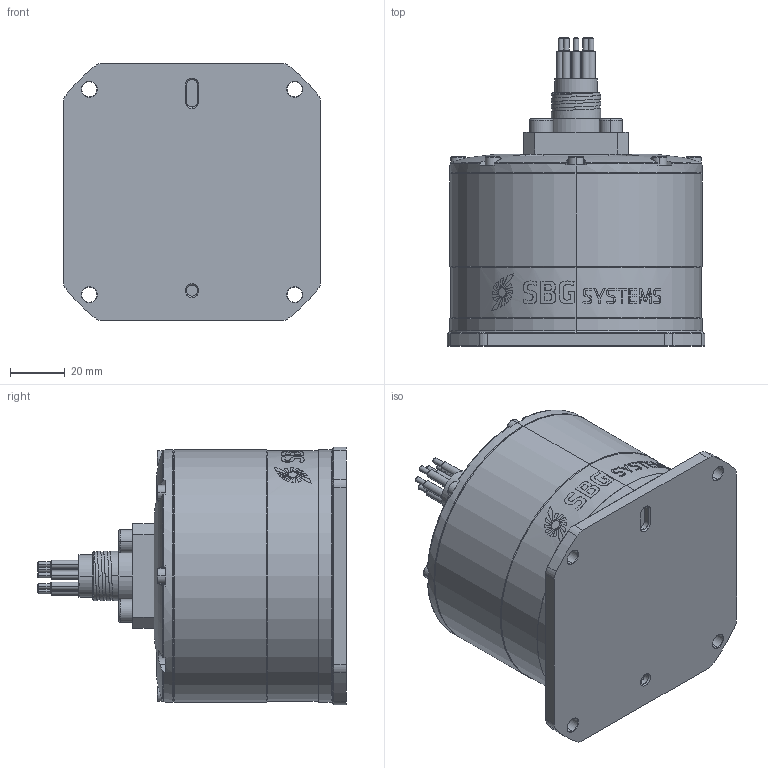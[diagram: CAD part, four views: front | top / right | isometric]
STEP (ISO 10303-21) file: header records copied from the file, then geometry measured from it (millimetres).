
FILE_DESCRIPTION (( 'STEP AP214' ), '1' );
FILE_NAME ('Navsight-Ekinox-U.STEP', '2017-07-27T08:33:04', ( '' ), ( '' ), 'SwSTEP 2.0', 'SolidWorks 2016', '' );
FILE_SCHEMA (( 'AUTOMOTIVE_DESIGN' ));
Length unit declared in the file: millimetre
Products named in the file (1): Navsight-Ekinox-U
Bounding box: 94 x 112.5 x 94 mm (x, y, z)
Volume: 484870.5 mm3; surface area: 41662.9 mm2
Topology: 1 solids, 1 shells, 904 faces, 2271 edges, 1427 vertices
Faces by surface type: plane 387, bspline 230, cylinder 152, cone 97, torus 38
Entity records: 38296 total; most frequent: CARTESIAN_POINT 18381, ORIENTED_EDGE 4498, DIRECTION 3389, EDGE_CURVE 2249, VERTEX_POINT 1427, AXIS2_PLACEMENT_3D 1160, LINE 1069, VECTOR 1069
